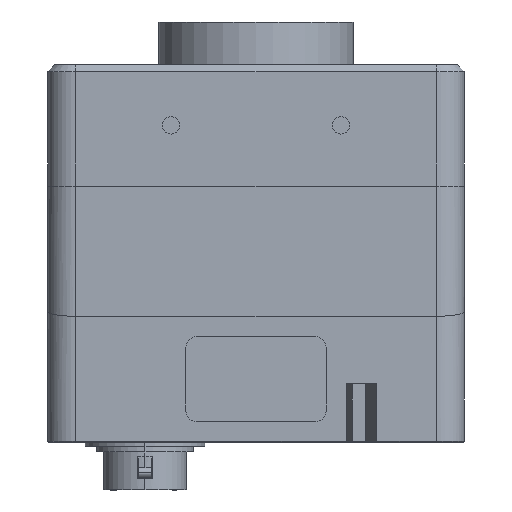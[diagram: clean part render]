
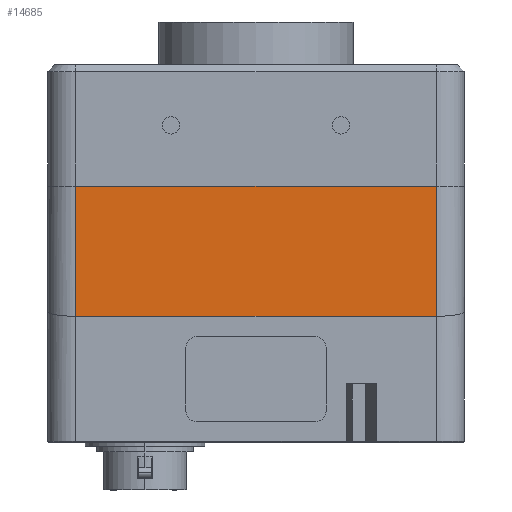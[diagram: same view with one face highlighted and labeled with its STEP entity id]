
A CAD part, front view. The second image highlights one B-rep face of the part: STEP entity #14685.
In plain terms, the highlighted planar face has unit normal (0, -1, 0).
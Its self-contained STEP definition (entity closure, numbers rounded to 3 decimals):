
#1323 = EDGE_CURVE ( 'NONE', #25515, #42965, #38440, .T. ) ;
#2169 = AXIS2_PLACEMENT_3D ( 'NONE', #41304, #5919, #16362 ) ;
#4647 = DIRECTION ( 'NONE',  ( -1., 0., 0. ) ) ;
#5295 = CARTESIAN_POINT ( 'NONE',  ( -55.993, -22.813, -27.502 ) ) ;
#5919 = DIRECTION ( 'NONE',  ( 0., 1., 0. ) ) ;
#8058 = ORIENTED_EDGE ( 'NONE', *, *, #31030, .F. ) ;
#9280 = ORIENTED_EDGE ( 'NONE', *, *, #43209, .F. ) ;
#12156 = ORIENTED_EDGE ( 'NONE', *, *, #1323, .F. ) ;
#14501 = LINE ( 'NONE', #32593, #17820 ) ;
#14685 = ADVANCED_FACE ( 'NONE', ( #18472 ), #34187, .F. ) ;
#15906 = LINE ( 'NONE', #39874, #43617 ) ;
#16362 = DIRECTION ( 'NONE',  ( 0., 0., -1. ) ) ;
#16627 = EDGE_CURVE ( 'NONE', #32972, #35461, #14501, .T. ) ;
#17820 = VECTOR ( 'NONE', #43380, 1000. ) ;
#18472 = FACE_OUTER_BOUND ( 'NONE', #43439, .T. ) ;
#19779 = DIRECTION ( 'NONE',  ( 0., 0., 1. ) ) ;
#25515 = VERTEX_POINT ( 'NONE', #33016 ) ;
#27362 = ORIENTED_EDGE ( 'NONE', *, *, #16627, .F. ) ;
#27507 = CARTESIAN_POINT ( 'NONE',  ( -55.993, -22.813, -8.75 ) ) ;
#30020 = VECTOR ( 'NONE', #19779, 1000. ) ;
#31030 = EDGE_CURVE ( 'NONE', #42965, #32972, #45453, .T. ) ;
#32593 = CARTESIAN_POINT ( 'NONE',  ( -29.993, -22.813, -8.75 ) ) ;
#32972 = VERTEX_POINT ( 'NONE', #27507 ) ;
#33016 = CARTESIAN_POINT ( 'NONE',  ( -3.993, -22.813, -27.502 ) ) ;
#34187 = PLANE ( 'NONE',  #2169 ) ;
#35461 = VERTEX_POINT ( 'NONE', #37327 ) ;
#37327 = CARTESIAN_POINT ( 'NONE',  ( -3.993, -22.813, -8.75 ) ) ;
#38440 = LINE ( 'NONE', #44210, #43988 ) ;
#39874 = CARTESIAN_POINT ( 'NONE',  ( -3.993, -22.813, -22.75 ) ) ;
#41001 = CARTESIAN_POINT ( 'NONE',  ( -55.993, -22.813, -22.75 ) ) ;
#41304 = CARTESIAN_POINT ( 'NONE',  ( 0.007, -22.813, -22.75 ) ) ;
#42954 = DIRECTION ( 'NONE',  ( 0., 0., -1. ) ) ;
#42965 = VERTEX_POINT ( 'NONE', #5295 ) ;
#43209 = EDGE_CURVE ( 'NONE', #35461, #25515, #15906, .T. ) ;
#43380 = DIRECTION ( 'NONE',  ( 1., 0., 0. ) ) ;
#43439 = EDGE_LOOP ( 'NONE', ( #12156, #9280, #27362, #8058 ) ) ;
#43617 = VECTOR ( 'NONE', #42954, 1000. ) ;
#43988 = VECTOR ( 'NONE', #4647, 1000. ) ;
#44210 = CARTESIAN_POINT ( 'NONE',  ( 0.007, -22.813, -27.502 ) ) ;
#45453 = LINE ( 'NONE', #41001, #30020 ) ;
